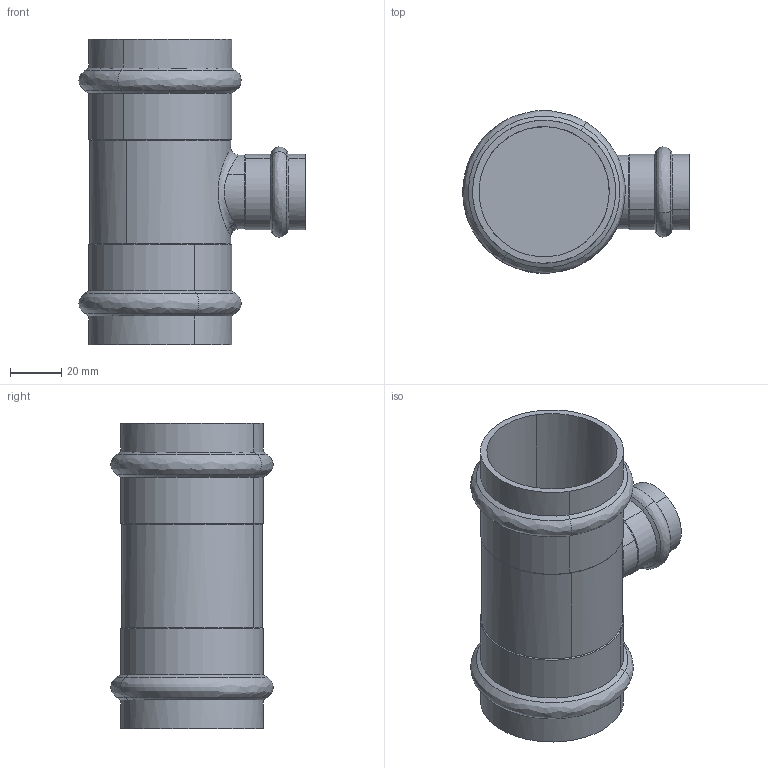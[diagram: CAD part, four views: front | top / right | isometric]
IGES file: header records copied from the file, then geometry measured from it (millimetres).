
Start section: 3D InterOp IGES (Version 25 0 1), Spatial Corp. Copyright (c) 1999-2007.
Global section: file name: pim0004531.igs; native system: Spatial Corp.; preprocessor: 3D InterOp ACIS/IGES; author: Cad-Pim; organization: TransMagic, Inc.; date: 20150430.164459; units: millimetre
Bounding box: 88.16 x 63.32 x 119 mm (x, y, z)
Volume: 149320.4 mm3; surface area: 44659.1 mm2
Topology: 1 solids, 1 shells, 54 faces, 145 edges, 97 vertices
Faces by surface type: cylinder 22, cone 18, bspline 14
